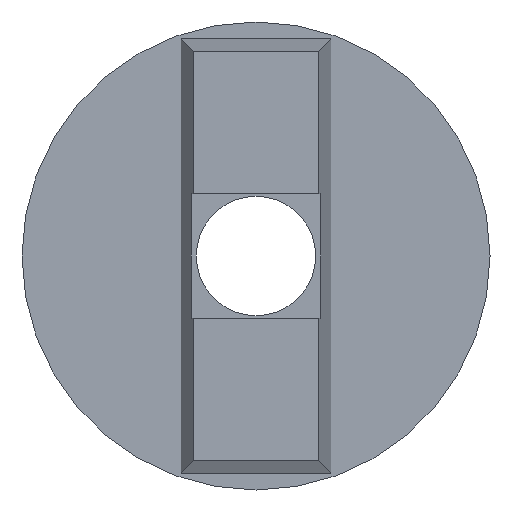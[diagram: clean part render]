
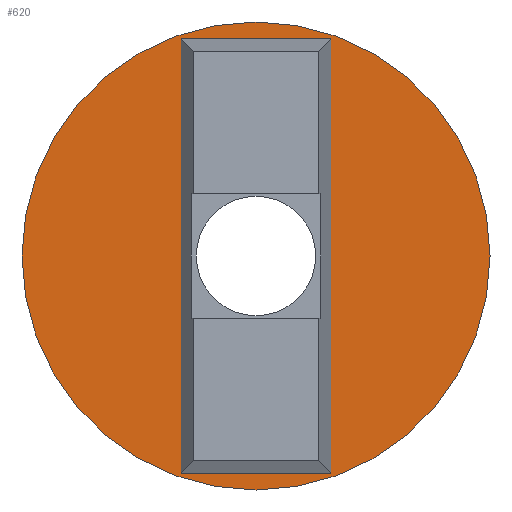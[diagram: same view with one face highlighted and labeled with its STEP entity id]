
A CAD part, front view. The second image highlights one B-rep face of the part: STEP entity #620.
In plain terms, the highlighted planar face has unit normal (0, -1, 0).
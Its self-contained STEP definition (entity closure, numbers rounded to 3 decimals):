
#22 = CARTESIAN_POINT ( 'NONE',  ( 0., 8., 24.5 ) ) ;
#65 = VERTEX_POINT ( 'NONE', #320 ) ;
#67 = DIRECTION ( 'NONE',  ( 0., 1., 0. ) ) ;
#109 = VERTEX_POINT ( 'NONE', #22 ) ;
#120 = CARTESIAN_POINT ( 'NONE',  ( -7.85, 8., 22.8 ) ) ;
#124 = CARTESIAN_POINT ( 'NONE',  ( 7.85, 8., 24.75 ) ) ;
#131 = CARTESIAN_POINT ( 'NONE',  ( -7.85, 8., -22.8 ) ) ;
#145 = PLANE ( 'NONE',  #261 ) ;
#169 = CARTESIAN_POINT ( 'NONE',  ( -7.85, 8., 24.75 ) ) ;
#182 = ORIENTED_EDGE ( 'NONE', *, *, #810, .T. ) ;
#230 = ORIENTED_EDGE ( 'NONE', *, *, #941, .F. ) ;
#256 = EDGE_CURVE ( 'NONE', #65, #109, #830, .T. ) ;
#261 = AXIS2_PLACEMENT_3D ( 'NONE', #753, #67, #369 ) ;
#273 = EDGE_CURVE ( 'NONE', #765, #554, #520, .T. ) ;
#278 = CIRCLE ( 'NONE', #341, 24.5 ) ;
#279 = DIRECTION ( 'NONE',  ( 1., 0., 0. ) ) ;
#316 = VECTOR ( 'NONE', #394, 1000. ) ;
#320 = CARTESIAN_POINT ( 'NONE',  ( 0., 8., -24.5 ) ) ;
#326 = VECTOR ( 'NONE', #732, 1000. ) ;
#341 = AXIS2_PLACEMENT_3D ( 'NONE', #536, #829, #619 ) ;
#347 = DIRECTION ( 'NONE',  ( 1., 0., 0. ) ) ;
#369 = DIRECTION ( 'NONE',  ( -1., 0., 0. ) ) ;
#394 = DIRECTION ( 'NONE',  ( 0., 0., -1. ) ) ;
#426 = CARTESIAN_POINT ( 'NONE',  ( -24.5, 8., 22.8 ) ) ;
#509 = ORIENTED_EDGE ( 'NONE', *, *, #792, .F. ) ;
#520 = LINE ( 'NONE', #169, #316 ) ;
#536 = CARTESIAN_POINT ( 'NONE',  ( 0., 8., 0. ) ) ;
#554 = VERTEX_POINT ( 'NONE', #131 ) ;
#567 = FACE_BOUND ( 'NONE', #674, .T. ) ;
#587 = VERTEX_POINT ( 'NONE', #748 ) ;
#619 = DIRECTION ( 'NONE',  ( -1., 0., 0. ) ) ;
#620 = ADVANCED_FACE ( 'NONE', ( #567, #869 ), #145, .F. ) ;
#621 = VECTOR ( 'NONE', #347, 1000. ) ;
#638 = VERTEX_POINT ( 'NONE', #856 ) ;
#665 = EDGE_CURVE ( 'NONE', #638, #587, #671, .T. ) ;
#666 = EDGE_LOOP ( 'NONE', ( #230, #919 ) ) ;
#668 = CARTESIAN_POINT ( 'NONE',  ( -24.5, 8., -22.8 ) ) ;
#671 = LINE ( 'NONE', #124, #326 ) ;
#674 = EDGE_LOOP ( 'NONE', ( #182, #890, #509, #835 ) ) ;
#686 = DIRECTION ( 'NONE',  ( -1., 0., 0. ) ) ;
#732 = DIRECTION ( 'NONE',  ( 0., 0., -1. ) ) ;
#748 = CARTESIAN_POINT ( 'NONE',  ( 7.85, 8., -22.8 ) ) ;
#753 = CARTESIAN_POINT ( 'NONE',  ( -7.85, 8., 24.75 ) ) ;
#765 = VERTEX_POINT ( 'NONE', #120 ) ;
#784 = LINE ( 'NONE', #426, #993 ) ;
#792 = EDGE_CURVE ( 'NONE', #554, #587, #969, .T. ) ;
#810 = EDGE_CURVE ( 'NONE', #765, #638, #784, .T. ) ;
#829 = DIRECTION ( 'NONE',  ( 0., 1., 0. ) ) ;
#830 = CIRCLE ( 'NONE', #963, 24.5 ) ;
#832 = CARTESIAN_POINT ( 'NONE',  ( 0., 8., 0. ) ) ;
#835 = ORIENTED_EDGE ( 'NONE', *, *, #273, .F. ) ;
#856 = CARTESIAN_POINT ( 'NONE',  ( 7.85, 8., 22.8 ) ) ;
#869 = FACE_OUTER_BOUND ( 'NONE', #666, .T. ) ;
#890 = ORIENTED_EDGE ( 'NONE', *, *, #665, .T. ) ;
#919 = ORIENTED_EDGE ( 'NONE', *, *, #256, .F. ) ;
#941 = EDGE_CURVE ( 'NONE', #109, #65, #278, .T. ) ;
#963 = AXIS2_PLACEMENT_3D ( 'NONE', #832, #980, #686 ) ;
#969 = LINE ( 'NONE', #668, #621 ) ;
#980 = DIRECTION ( 'NONE',  ( 0., 1., 0. ) ) ;
#993 = VECTOR ( 'NONE', #279, 1000. ) ;
